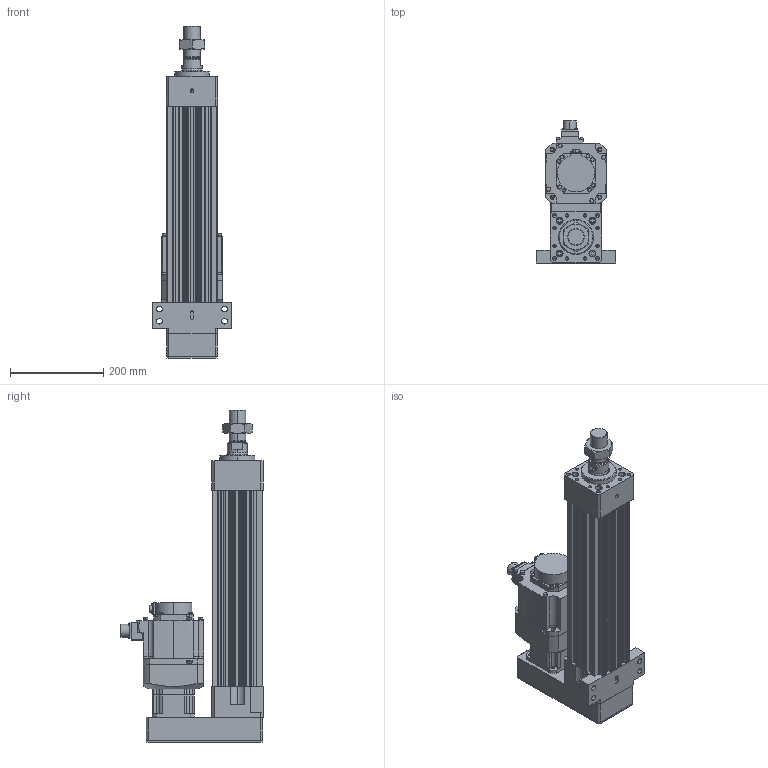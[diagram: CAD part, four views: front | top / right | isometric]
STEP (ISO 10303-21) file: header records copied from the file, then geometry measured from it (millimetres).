
FILE_DESCRIPTION (( 'STEP AP203' ), '1' );
FILE_NAME ('HES110NS(HS)-P250-W010G00-M-FFC.STEP', '2023-01-26T10:01:34', ( 'tms' ), ( '' ), 'SwSTEP 2.0', 'SolidWorks 2013', '' );
FILE_SCHEMA (( 'CONFIG_CONTROL_DESIGN' ));
Length unit declared in the file: millimetre
Products named in the file (8): AB0901; P0401301004; HG-SR102; HES110 ROD M ST250; M36X1.5P; HES110NS(HS)-P250-W010G00-M-FFC; HES110-P250-G090-FFC; AB090-003[HG-SR102B]
Assembly tree (7 placements, depth 3):
  HES110NS(HS)-P250-W010G00-M-FFC
    HES110-P250-G090-FFC
    HES110 ROD M ST250
    M36X1.5P
    AB090-003[HG-SR102B]
      AB0901
      P0401301004
    HG-SR102
Bounding box: 170 x 304.99 x 713 mm (x, y, z)
Volume: 7103364.3 mm3; surface area: 876178.8 mm2
Topology: 4 solids, 11 shells, 1111 faces, 2835 edges, 1826 vertices
Faces by surface type: cylinder 519, plane 486, cone 94, bspline 8, torus 4
Entity records: 35472 total; most frequent: CARTESIAN_POINT 6938, DIRECTION 6110, ORIENTED_EDGE 5574, EDGE_CURVE 2797, AXIS2_PLACEMENT_3D 2269, VERTEX_POINT 1826, VECTOR 1572, LINE 1572
